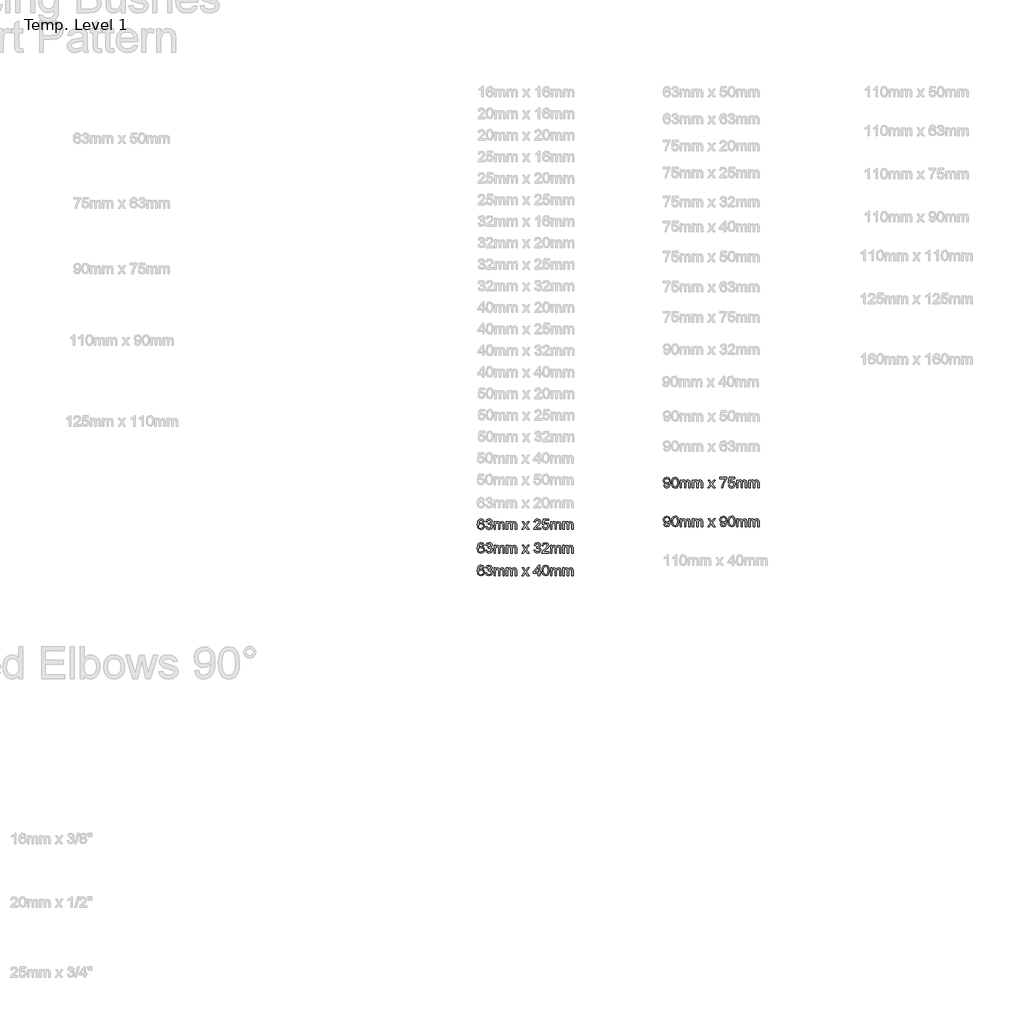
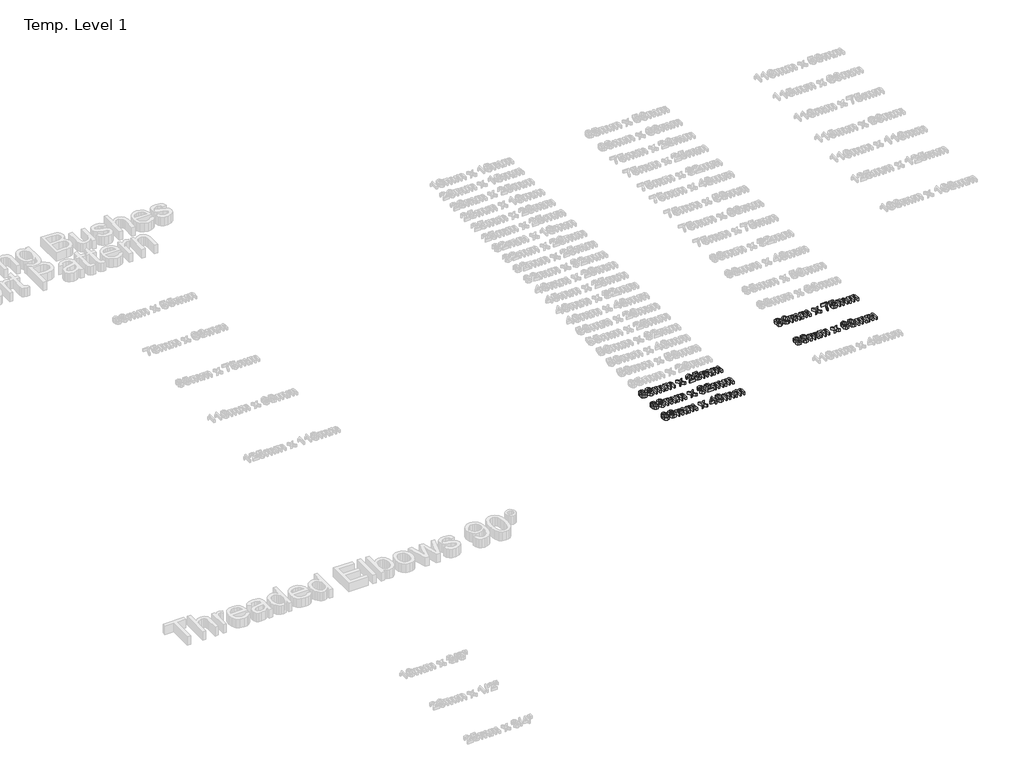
# One storey, part 25 of 62: 5 proxies.
"""IFC4 building model written with IfcOpenShell, lengths in millimetres."""

from ifc_helpers import new_model, si_unit, origin, origin_with_axes, place, context, project, spatial, polyline, outline, extrude, element, save

model = new_model("IFC4")

# Units and contexts
model_context = context("Model", 3, world=origin())
ifc_project = project(units=[si_unit("LENGTHUNIT", "METRE", prefix="MILLI")], contexts=[model_context])

# Site, building, storey
site = spatial("IfcSite", under=ifc_project)
building = spatial("IfcBuilding", under=site)
storey = spatial("IfcBuildingStorey", under=building, Name="Temp. Level 1", Elevation=0.0)

# Proxies
placement = place(None, origin())
element("IfcBuildingElementProxy", 1, Name="50mm Arial", ObjectType="50mm Arial", at=placement, inside=storey, context=model_context, shape_type="SweptSolid", body=[
    extrude(outline(polyline([(26443.7671463, -9341.2279829), (26437.6133001, -9341.9972136), (26435.2815694, -9336.8650021), (26429.115704, -9334.3049059), (26423.5628194, -9335.7952905), (26419.3620982, -9341.3902425), (26417.6133001, -9352.3577905), (26423.0399828, -9347.4479348), (26429.7647424, -9345.8433675), (26440.2214732, -9350.2303867), (26444.5363771, -9361.5645213), (26442.5051271, -9370.0561079), (26436.9161847, -9376.0657232), (26428.8512809, -9378.1510598), (26416.3092136, -9372.6222136), (26412.6718939, -9365.3025021), (26411.459454, -9354.4010598), (26412.8056078, -9342.1444492), (26416.8440694, -9333.7640405), (26422.3578915, -9329.554305), (26429.5003194, -9328.1510598), (26439.2238771, -9331.6246175), (26443.7671463, -9341.2279829)]), holes=[polyline([(26417.6133001, -9361.4683675), (26419.037579, -9366.7988963), (26422.8236367, -9370.6690886), (26428.3705117, -9371.9972136), (26435.6241174, -9369.2448098), (26438.3825309, -9361.7688482), (26435.6601751, -9354.6113963), (26428.1181078, -9351.9972136), (26420.6721944, -9354.6113963), (26417.6133001, -9361.4683675)])]), origin_with_axes(), (0.0, 0.0, 1.0), 15.0),
    extrude(outline(polyline([(26449.9209924, -9364.3049059), (26456.0748386, -9363.5356752), (26459.4702713, -9370.0140405), (26465.8224347, -9371.9972136), (26473.2983963, -9369.2688482), (26476.0748386, -9362.5140405), (26473.3224347, -9356.1498579), (26466.3272424, -9353.631829), (26462.0123386, -9354.3049059), (26462.6974347, -9348.1510598), (26470.6661847, -9346.4563482), (26473.7671463, -9341.0236559), (26471.5195501, -9336.209954), (26465.7262809, -9334.3049059), (26459.8608963, -9336.2279829), (26456.8440694, -9341.9972136), (26450.6902232, -9341.2279829), (26455.7262809, -9331.5765405), (26465.5099347, -9328.1510598), (26472.9318097, -9329.8397617), (26478.1241174, -9334.4551463), (26479.9209924, -9340.663079), (26478.2142617, -9346.3361559), (26473.1661847, -9350.4106752), (26479.8729155, -9354.6174059), (26482.2286847, -9362.6222136), (26477.5171463, -9373.631829), (26465.6060886, -9378.1510598), (26454.8128194, -9374.2928867), (26449.9209924, -9364.3049059)])), origin_with_axes(), (0.0, 0.0, 1.0), 15.0),
    extrude(outline(polyline([(26489.1517617, -9377.381829), (26489.1517617, -9341.2279829), (26495.3056078, -9341.2279829), (26495.3056078, -9347.1775021), (26499.5363771, -9342.303704), (26505.5580117, -9340.4587521), (26511.7238771, -9342.3397617), (26515.1133001, -9347.6101944), (26519.9149828, -9342.2466127), (26525.9786847, -9340.4587521), (26534.0255597, -9343.4335117), (26536.8440694, -9352.5981752), (26536.8440694, -9377.381829), (26530.6902232, -9377.381829), (26530.6902232, -9355.2424059), (26530.1193097, -9350.1041848), (26528.0520021, -9347.5741367), (26524.5363771, -9346.6125982), (26518.4846944, -9349.0765405), (26516.0748386, -9356.9731752), (26516.0748386, -9377.381829), (26509.9209924, -9377.381829), (26509.9209924, -9354.5573098), (26508.4967136, -9348.5957713), (26503.8272424, -9346.6125982), (26499.271954, -9347.9347136), (26496.2431078, -9351.8049059), (26495.3056078, -9359.1486559), (26495.3056078, -9377.381829), (26489.1517617, -9377.381829)])), origin_with_axes(), (0.0, 0.0, 1.0), 15.0),
    extrude(outline(polyline([(26546.0748386, -9377.381829), (26546.0748386, -9341.2279829), (26552.2286847, -9341.2279829), (26552.2286847, -9347.1775021), (26556.459454, -9342.303704), (26562.4810886, -9340.4587521), (26568.646954, -9342.3397617), (26572.0363771, -9347.6101944), (26576.8380597, -9342.2466127), (26582.9017617, -9340.4587521), (26590.9486367, -9343.4335117), (26593.7671463, -9352.5981752), (26593.7671463, -9377.381829), (26587.6133001, -9377.381829), (26587.6133001, -9355.2424059), (26587.0423867, -9350.1041848), (26584.975079, -9347.5741367), (26581.459454, -9346.6125982), (26575.4077713, -9349.0765405), (26572.9979155, -9356.9731752), (26572.9979155, -9377.381829), (26566.8440694, -9377.381829), (26566.8440694, -9354.5573098), (26565.4197905, -9348.5957713), (26560.7503194, -9346.6125982), (26556.1950309, -9347.9347136), (26553.1661847, -9351.8049059), (26552.2286847, -9359.1486559), (26552.2286847, -9377.381829), (26546.0748386, -9377.381829)])), origin_with_axes(), (0.0, 0.0, 1.0), 15.0),
    extrude(outline(polyline([(26618.3825309, -9377.381829), (26631.5315694, -9359.2087521), (26619.1517617, -9341.2279829), (26626.5556078, -9341.2279829), (26632.5291655, -9349.881829), (26635.3176271, -9353.9683675), (26637.7334924, -9350.6270213), (26644.5363771, -9341.2279829), (26651.9402232, -9341.2279829), (26638.9354155, -9359.2087521), (26651.459454, -9377.381829), (26644.0556078, -9377.381829), (26636.5195501, -9366.4563482), (26635.1373386, -9364.4611559), (26625.7863771, -9377.381829), (26618.3825309, -9377.381829)])), origin_with_axes(), (0.0, 0.0, 1.0), 15.0),
    extrude(outline(polyline([(26706.0748386, -9371.2279829), (26706.0748386, -9377.381829), (26673.7671463, -9377.381829), (26674.428204, -9373.1390405), (26678.1661847, -9366.6065886), (26685.8705117, -9359.4731752), (26696.4955117, -9349.2207713), (26699.1517617, -9342.2496175), (26696.6457521, -9336.6065886), (26690.1012809, -9334.3049059), (26683.2803674, -9336.5525021), (26680.6902232, -9342.7664444), (26674.5363771, -9341.9972136), (26679.2539251, -9331.6967329), (26690.2334924, -9328.1510598), (26701.2491174, -9332.0933675), (26705.3056078, -9341.8770213), (26704.2118578, -9347.7123579), (26700.5760405, -9353.7460117), (26691.7599347, -9362.1775021), (26684.6806078, -9368.0969732), (26681.9041655, -9371.2279829), (26706.0748386, -9371.2279829)])), origin_with_axes(), (0.0, 0.0, 1.0), 15.0),
    extrude(outline(polyline([(26712.2286847, -9364.3049059), (26718.3825309, -9363.5356752), (26721.4834924, -9369.8758194), (26727.9137809, -9371.9972136), (26735.6301271, -9369.0464925), (26738.3825309, -9361.2159636), (26735.8044059, -9353.9082713), (26728.0099347, -9351.2279829), (26722.6072905, -9352.2976944), (26719.1517617, -9355.0741367), (26712.9979155, -9354.3049059), (26718.3825309, -9328.9202905), (26742.2286847, -9328.9202905), (26742.2286847, -9335.0741367), (26723.3584924, -9335.0741367), (26720.7262809, -9348.631829), (26729.7286847, -9345.0741367), (26740.2515213, -9349.4851944), (26744.5363771, -9360.8313482), (26740.678204, -9372.2496175), (26735.1373386, -9376.6756992), (26727.8897424, -9378.1510598), (26717.0303674, -9374.3589925), (26712.2286847, -9364.3049059)])), origin_with_axes(), (0.0, 0.0, 1.0), 15.0),
    extrude(outline(polyline([(26751.459454, -9377.381829), (26751.459454, -9341.2279829), (26757.6133001, -9341.2279829), (26757.6133001, -9347.1775021), (26761.8440694, -9342.303704), (26767.865704, -9340.4587521), (26774.0315694, -9342.3397617), (26777.4209924, -9347.6101944), (26782.2226751, -9342.2466127), (26788.2863771, -9340.4587521), (26796.3332521, -9343.4335117), (26799.1517617, -9352.5981752), (26799.1517617, -9377.381829), (26792.9979155, -9377.381829), (26792.9979155, -9355.2424059), (26792.4270021, -9350.1041848), (26790.3596944, -9347.5741367), (26786.8440694, -9346.6125982), (26780.7923867, -9349.0765405), (26778.3825309, -9356.9731752), (26778.3825309, -9377.381829), (26772.2286847, -9377.381829), (26772.2286847, -9354.5573098), (26770.8044059, -9348.5957713), (26766.1349347, -9346.6125982), (26761.5796463, -9347.9347136), (26758.5508001, -9351.8049059), (26757.6133001, -9359.1486559), (26757.6133001, -9377.381829), (26751.459454, -9377.381829)])), origin_with_axes(), (0.0, 0.0, 1.0), 15.0),
    extrude(outline(polyline([(26808.3825309, -9377.381829), (26808.3825309, -9341.2279829), (26814.5363771, -9341.2279829), (26814.5363771, -9347.1775021), (26818.7671463, -9342.303704), (26824.7887809, -9340.4587521), (26830.9546463, -9342.3397617), (26834.3440694, -9347.6101944), (26839.1457521, -9342.2466127), (26845.209454, -9340.4587521), (26853.256329, -9343.4335117), (26856.0748386, -9352.5981752), (26856.0748386, -9377.381829), (26849.9209924, -9377.381829), (26849.9209924, -9355.2424059), (26849.350079, -9350.1041848), (26847.2827713, -9347.5741367), (26843.7671463, -9346.6125982), (26837.7154636, -9349.0765405), (26835.3056078, -9356.9731752), (26835.3056078, -9377.381829), (26829.1517617, -9377.381829), (26829.1517617, -9354.5573098), (26827.7274828, -9348.5957713), (26823.0580117, -9346.6125982), (26818.5027232, -9347.9347136), (26815.4738771, -9351.8049059), (26814.5363771, -9359.1486559), (26814.5363771, -9377.381829), (26808.3825309, -9377.381829)])), origin_with_axes(), (0.0, 0.0, 1.0), 15.0),
])
element("IfcBuildingElementProxy", 2, Name="50mm Arial", ObjectType="50mm Arial", at=placement, inside=storey, context=model_context, shape_type="SweptSolid", body=[
    extrude(outline(polyline([(26443.7671463, -9451.2279829), (26437.6133001, -9451.9972136), (26435.2815694, -9446.8650021), (26429.115704, -9444.3049059), (26423.5628194, -9445.7952905), (26419.3620982, -9451.3902425), (26417.6133001, -9462.3577905), (26423.0399828, -9457.4479348), (26429.7647424, -9455.8433675), (26440.2214732, -9460.2303867), (26444.5363771, -9471.5645213), (26442.5051271, -9480.0561079), (26436.9161847, -9486.0657232), (26428.8512809, -9488.1510598), (26416.3092136, -9482.6222136), (26412.6718939, -9475.3025021), (26411.459454, -9464.4010598), (26412.8056078, -9452.1444492), (26416.8440694, -9443.7640405), (26422.3578915, -9439.554305), (26429.5003194, -9438.1510598), (26439.2238771, -9441.6246175), (26443.7671463, -9451.2279829)]), holes=[polyline([(26417.6133001, -9471.4683675), (26419.037579, -9476.7988963), (26422.8236367, -9480.6690886), (26428.3705117, -9481.9972136), (26435.6241174, -9479.2448098), (26438.3825309, -9471.7688482), (26435.6601751, -9464.6113963), (26428.1181078, -9461.9972136), (26420.6721944, -9464.6113963), (26417.6133001, -9471.4683675)])]), origin_with_axes(), (0.0, 0.0, 1.0), 15.0),
    extrude(outline(polyline([(26449.9209924, -9474.3049059), (26456.0748386, -9473.5356752), (26459.4702713, -9480.0140405), (26465.8224347, -9481.9972136), (26473.2983963, -9479.2688482), (26476.0748386, -9472.5140405), (26473.3224347, -9466.1498579), (26466.3272424, -9463.631829), (26462.0123386, -9464.3049059), (26462.6974347, -9458.1510598), (26470.6661847, -9456.4563482), (26473.7671463, -9451.0236559), (26471.5195501, -9446.209954), (26465.7262809, -9444.3049059), (26459.8608963, -9446.2279829), (26456.8440694, -9451.9972136), (26450.6902232, -9451.2279829), (26455.7262809, -9441.5765405), (26465.5099347, -9438.1510598), (26472.9318097, -9439.8397617), (26478.1241174, -9444.4551463), (26479.9209924, -9450.663079), (26478.2142617, -9456.3361559), (26473.1661847, -9460.4106752), (26479.8729155, -9464.6174059), (26482.2286847, -9472.6222136), (26477.5171463, -9483.631829), (26465.6060886, -9488.1510598), (26454.8128194, -9484.2928867), (26449.9209924, -9474.3049059)])), origin_with_axes(), (0.0, 0.0, 1.0), 15.0),
    extrude(outline(polyline([(26489.1517617, -9487.381829), (26489.1517617, -9451.2279829), (26495.3056078, -9451.2279829), (26495.3056078, -9457.1775021), (26499.5363771, -9452.303704), (26505.5580117, -9450.4587521), (26511.7238771, -9452.3397617), (26515.1133001, -9457.6101944), (26519.9149828, -9452.2466127), (26525.9786847, -9450.4587521), (26534.0255597, -9453.4335117), (26536.8440694, -9462.5981752), (26536.8440694, -9487.381829), (26530.6902232, -9487.381829), (26530.6902232, -9465.2424059), (26530.1193097, -9460.1041848), (26528.0520021, -9457.5741367), (26524.5363771, -9456.6125982), (26518.4846944, -9459.0765405), (26516.0748386, -9466.9731752), (26516.0748386, -9487.381829), (26509.9209924, -9487.381829), (26509.9209924, -9464.5573098), (26508.4967136, -9458.5957713), (26503.8272424, -9456.6125982), (26499.271954, -9457.9347136), (26496.2431078, -9461.8049059), (26495.3056078, -9469.1486559), (26495.3056078, -9487.381829), (26489.1517617, -9487.381829)])), origin_with_axes(), (0.0, 0.0, 1.0), 15.0),
    extrude(outline(polyline([(26546.0748386, -9487.381829), (26546.0748386, -9451.2279829), (26552.2286847, -9451.2279829), (26552.2286847, -9457.1775021), (26556.459454, -9452.303704), (26562.4810886, -9450.4587521), (26568.646954, -9452.3397617), (26572.0363771, -9457.6101944), (26576.8380597, -9452.2466127), (26582.9017617, -9450.4587521), (26590.9486367, -9453.4335117), (26593.7671463, -9462.5981752), (26593.7671463, -9487.381829), (26587.6133001, -9487.381829), (26587.6133001, -9465.2424059), (26587.0423867, -9460.1041848), (26584.975079, -9457.5741367), (26581.459454, -9456.6125982), (26575.4077713, -9459.0765405), (26572.9979155, -9466.9731752), (26572.9979155, -9487.381829), (26566.8440694, -9487.381829), (26566.8440694, -9464.5573098), (26565.4197905, -9458.5957713), (26560.7503194, -9456.6125982), (26556.1950309, -9457.9347136), (26553.1661847, -9461.8049059), (26552.2286847, -9469.1486559), (26552.2286847, -9487.381829), (26546.0748386, -9487.381829)])), origin_with_axes(), (0.0, 0.0, 1.0), 15.0),
    extrude(outline(polyline([(26618.3825309, -9487.381829), (26631.5315694, -9469.2087521), (26619.1517617, -9451.2279829), (26626.5556078, -9451.2279829), (26632.5291655, -9459.881829), (26635.3176271, -9463.9683675), (26637.7334924, -9460.6270213), (26644.5363771, -9451.2279829), (26651.9402232, -9451.2279829), (26638.9354155, -9469.2087521), (26651.459454, -9487.381829), (26644.0556078, -9487.381829), (26636.5195501, -9476.4563482), (26635.1373386, -9474.4611559), (26625.7863771, -9487.381829), (26618.3825309, -9487.381829)])), origin_with_axes(), (0.0, 0.0, 1.0), 15.0),
    extrude(outline(polyline([(26674.5363771, -9474.3049059), (26680.6902232, -9473.5356752), (26684.0856559, -9480.0140405), (26690.4378194, -9481.9972136), (26697.9137809, -9479.2688482), (26700.6902232, -9472.5140405), (26697.9378194, -9466.1498579), (26690.9426271, -9463.631829), (26686.6277232, -9464.3049059), (26687.3128194, -9458.1510598), (26695.2815694, -9456.4563482), (26698.3825309, -9451.0236559), (26696.1349347, -9446.209954), (26690.3416655, -9444.3049059), (26684.4762809, -9446.2279829), (26681.459454, -9451.9972136), (26675.3056078, -9451.2279829), (26680.3416655, -9441.5765405), (26690.1253194, -9438.1510598), (26697.5471944, -9439.8397617), (26702.7395021, -9444.4551463), (26704.5363771, -9450.663079), (26702.8296463, -9456.3361559), (26697.7815694, -9460.4106752), (26704.4883001, -9464.6174059), (26706.8440694, -9472.6222136), (26702.1325309, -9483.631829), (26690.2214732, -9488.1510598), (26679.428204, -9484.2928867), (26674.5363771, -9474.3049059)])), origin_with_axes(), (0.0, 0.0, 1.0), 15.0),
    extrude(outline(polyline([(26743.7671463, -9481.2279829), (26743.7671463, -9487.381829), (26711.459454, -9487.381829), (26712.1205117, -9483.1390405), (26715.8584924, -9476.6065886), (26723.5628194, -9469.4731752), (26734.1878194, -9459.2207713), (26736.8440694, -9452.2496175), (26734.3380597, -9446.6065886), (26727.7935886, -9444.3049059), (26720.9726751, -9446.5525021), (26718.3825309, -9452.7664444), (26712.2286847, -9451.9972136), (26716.9462328, -9441.6967329), (26727.9258001, -9438.1510598), (26738.9414251, -9442.0933675), (26742.9979155, -9451.8770213), (26741.9041655, -9457.7123579), (26738.2683482, -9463.7460117), (26729.4522424, -9472.1775021), (26722.3729155, -9478.0969732), (26719.5964732, -9481.2279829), (26743.7671463, -9481.2279829)])), origin_with_axes(), (0.0, 0.0, 1.0), 15.0),
    extrude(outline(polyline([(26751.459454, -9487.381829), (26751.459454, -9451.2279829), (26757.6133001, -9451.2279829), (26757.6133001, -9457.1775021), (26761.8440694, -9452.303704), (26767.865704, -9450.4587521), (26774.0315694, -9452.3397617), (26777.4209924, -9457.6101944), (26782.2226751, -9452.2466127), (26788.2863771, -9450.4587521), (26796.3332521, -9453.4335117), (26799.1517617, -9462.5981752), (26799.1517617, -9487.381829), (26792.9979155, -9487.381829), (26792.9979155, -9465.2424059), (26792.4270021, -9460.1041848), (26790.3596944, -9457.5741367), (26786.8440694, -9456.6125982), (26780.7923867, -9459.0765405), (26778.3825309, -9466.9731752), (26778.3825309, -9487.381829), (26772.2286847, -9487.381829), (26772.2286847, -9464.5573098), (26770.8044059, -9458.5957713), (26766.1349347, -9456.6125982), (26761.5796463, -9457.9347136), (26758.5508001, -9461.8049059), (26757.6133001, -9469.1486559), (26757.6133001, -9487.381829), (26751.459454, -9487.381829)])), origin_with_axes(), (0.0, 0.0, 1.0), 15.0),
    extrude(outline(polyline([(26808.3825309, -9487.381829), (26808.3825309, -9451.2279829), (26814.5363771, -9451.2279829), (26814.5363771, -9457.1775021), (26818.7671463, -9452.303704), (26824.7887809, -9450.4587521), (26830.9546463, -9452.3397617), (26834.3440694, -9457.6101944), (26839.1457521, -9452.2466127), (26845.209454, -9450.4587521), (26853.256329, -9453.4335117), (26856.0748386, -9462.5981752), (26856.0748386, -9487.381829), (26849.9209924, -9487.381829), (26849.9209924, -9465.2424059), (26849.350079, -9460.1041848), (26847.2827713, -9457.5741367), (26843.7671463, -9456.6125982), (26837.7154636, -9459.0765405), (26835.3056078, -9466.9731752), (26835.3056078, -9487.381829), (26829.1517617, -9487.381829), (26829.1517617, -9464.5573098), (26827.7274828, -9458.5957713), (26823.0580117, -9456.6125982), (26818.5027232, -9457.9347136), (26815.4738771, -9461.8049059), (26814.5363771, -9469.1486559), (26814.5363771, -9487.381829), (26808.3825309, -9487.381829)])), origin_with_axes(), (0.0, 0.0, 1.0), 15.0),
])
element("IfcBuildingElementProxy", 3, Name="50mm Arial", ObjectType="50mm Arial", at=placement, inside=storey, context=model_context, shape_type="SweptSolid", body=[
    extrude(outline(polyline([(26443.7671463, -9556.2279829), (26437.6133001, -9556.9972136), (26435.2815694, -9551.8650021), (26429.115704, -9549.3049059), (26423.5628194, -9550.7952905), (26419.3620982, -9556.3902425), (26417.6133001, -9567.3577905), (26423.0399828, -9562.4479348), (26429.7647424, -9560.8433675), (26440.2214732, -9565.2303867), (26444.5363771, -9576.5645213), (26442.5051271, -9585.0561079), (26436.9161847, -9591.0657232), (26428.8512809, -9593.1510598), (26416.3092136, -9587.6222136), (26412.6718939, -9580.3025021), (26411.459454, -9569.4010598), (26412.8056078, -9557.1444492), (26416.8440694, -9548.7640405), (26422.3578915, -9544.554305), (26429.5003194, -9543.1510598), (26439.2238771, -9546.6246175), (26443.7671463, -9556.2279829)]), holes=[polyline([(26417.6133001, -9576.4683675), (26419.037579, -9581.7988963), (26422.8236367, -9585.6690886), (26428.3705117, -9586.9972136), (26435.6241174, -9584.2448098), (26438.3825309, -9576.7688482), (26435.6601751, -9569.6113963), (26428.1181078, -9566.9972136), (26420.6721944, -9569.6113963), (26417.6133001, -9576.4683675)])]), origin_with_axes(), (0.0, 0.0, 1.0), 15.0),
    extrude(outline(polyline([(26449.9209924, -9579.3049059), (26456.0748386, -9578.5356752), (26459.4702713, -9585.0140405), (26465.8224347, -9586.9972136), (26473.2983963, -9584.2688482), (26476.0748386, -9577.5140405), (26473.3224347, -9571.1498579), (26466.3272424, -9568.631829), (26462.0123386, -9569.3049059), (26462.6974347, -9563.1510598), (26470.6661847, -9561.4563482), (26473.7671463, -9556.0236559), (26471.5195501, -9551.209954), (26465.7262809, -9549.3049059), (26459.8608963, -9551.2279829), (26456.8440694, -9556.9972136), (26450.6902232, -9556.2279829), (26455.7262809, -9546.5765405), (26465.5099347, -9543.1510598), (26472.9318097, -9544.8397617), (26478.1241174, -9549.4551463), (26479.9209924, -9555.663079), (26478.2142617, -9561.3361559), (26473.1661847, -9565.4106752), (26479.8729155, -9569.6174059), (26482.2286847, -9577.6222136), (26477.5171463, -9588.631829), (26465.6060886, -9593.1510598), (26454.8128194, -9589.2928867), (26449.9209924, -9579.3049059)])), origin_with_axes(), (0.0, 0.0, 1.0), 15.0),
    extrude(outline(polyline([(26489.1517617, -9592.381829), (26489.1517617, -9556.2279829), (26495.3056078, -9556.2279829), (26495.3056078, -9562.1775021), (26499.5363771, -9557.303704), (26505.5580117, -9555.4587521), (26511.7238771, -9557.3397617), (26515.1133001, -9562.6101944), (26519.9149828, -9557.2466127), (26525.9786847, -9555.4587521), (26534.0255597, -9558.4335117), (26536.8440694, -9567.5981752), (26536.8440694, -9592.381829), (26530.6902232, -9592.381829), (26530.6902232, -9570.2424059), (26530.1193097, -9565.1041848), (26528.0520021, -9562.5741367), (26524.5363771, -9561.6125982), (26518.4846944, -9564.0765405), (26516.0748386, -9571.9731752), (26516.0748386, -9592.381829), (26509.9209924, -9592.381829), (26509.9209924, -9569.5573098), (26508.4967136, -9563.5957713), (26503.8272424, -9561.6125982), (26499.271954, -9562.9347136), (26496.2431078, -9566.8049059), (26495.3056078, -9574.1486559), (26495.3056078, -9592.381829), (26489.1517617, -9592.381829)])), origin_with_axes(), (0.0, 0.0, 1.0), 15.0),
    extrude(outline(polyline([(26546.0748386, -9592.381829), (26546.0748386, -9556.2279829), (26552.2286847, -9556.2279829), (26552.2286847, -9562.1775021), (26556.459454, -9557.303704), (26562.4810886, -9555.4587521), (26568.646954, -9557.3397617), (26572.0363771, -9562.6101944), (26576.8380597, -9557.2466127), (26582.9017617, -9555.4587521), (26590.9486367, -9558.4335117), (26593.7671463, -9567.5981752), (26593.7671463, -9592.381829), (26587.6133001, -9592.381829), (26587.6133001, -9570.2424059), (26587.0423867, -9565.1041848), (26584.975079, -9562.5741367), (26581.459454, -9561.6125982), (26575.4077713, -9564.0765405), (26572.9979155, -9571.9731752), (26572.9979155, -9592.381829), (26566.8440694, -9592.381829), (26566.8440694, -9569.5573098), (26565.4197905, -9563.5957713), (26560.7503194, -9561.6125982), (26556.1950309, -9562.9347136), (26553.1661847, -9566.8049059), (26552.2286847, -9574.1486559), (26552.2286847, -9592.381829), (26546.0748386, -9592.381829)])), origin_with_axes(), (0.0, 0.0, 1.0), 15.0),
    extrude(outline(polyline([(26618.3825309, -9592.381829), (26631.5315694, -9574.2087521), (26619.1517617, -9556.2279829), (26626.5556078, -9556.2279829), (26632.5291655, -9564.881829), (26635.3176271, -9568.9683675), (26637.7334924, -9565.6270213), (26644.5363771, -9556.2279829), (26651.9402232, -9556.2279829), (26638.9354155, -9574.2087521), (26651.459454, -9592.381829), (26644.0556078, -9592.381829), (26636.5195501, -9581.4563482), (26635.1373386, -9579.4611559), (26625.7863771, -9592.381829), (26618.3825309, -9592.381829)])), origin_with_axes(), (0.0, 0.0, 1.0), 15.0),
    extrude(outline(polyline([(26694.5363771, -9592.381829), (26694.5363771, -9580.8433675), (26672.2286847, -9580.8433675), (26672.2286847, -9574.6895213), (26696.0748386, -9543.9202905), (26700.6902232, -9543.9202905), (26700.6902232, -9574.6895213), (26706.8440694, -9574.6895213), (26706.8440694, -9580.8433675), (26700.6902232, -9580.8433675), (26700.6902232, -9592.381829), (26694.5363771, -9592.381829)]), holes=[polyline([(26694.5363771, -9574.6895213), (26694.5363771, -9555.6750982), (26679.8008001, -9574.6895213), (26694.5363771, -9574.6895213)])]), origin_with_axes(), (0.0, 0.0, 1.0), 15.0),
    extrude(outline(polyline([(26712.2286847, -9568.163079), (26714.037579, -9553.9984155), (26719.4101751, -9545.8313482), (26728.3825309, -9543.1510598), (26735.5700309, -9544.7375982), (26740.5339732, -9549.3109155), (26743.4185886, -9556.5945694), (26744.5363771, -9568.163079), (26742.7455117, -9582.2676463), (26737.3909444, -9590.4527425), (26728.3825309, -9593.1510598), (26717.1325309, -9588.4635598), (26713.4546463, -9580.1372377), (26712.2286847, -9568.163079)]), holes=[polyline([(26718.3825309, -9568.1510598), (26721.2671463, -9583.4335117), (26728.3825309, -9586.9972136), (26735.4979155, -9583.4214925), (26738.3825309, -9568.1510598), (26735.5940694, -9553.0428867), (26728.3104155, -9549.3049059), (26721.3633001, -9552.5981752), (26718.3825309, -9568.1510598)])]), origin_with_axes(), (0.0, 0.0, 1.0), 15.0),
    extrude(outline(polyline([(26751.459454, -9592.381829), (26751.459454, -9556.2279829), (26757.6133001, -9556.2279829), (26757.6133001, -9562.1775021), (26761.8440694, -9557.303704), (26767.865704, -9555.4587521), (26774.0315694, -9557.3397617), (26777.4209924, -9562.6101944), (26782.2226751, -9557.2466127), (26788.2863771, -9555.4587521), (26796.3332521, -9558.4335117), (26799.1517617, -9567.5981752), (26799.1517617, -9592.381829), (26792.9979155, -9592.381829), (26792.9979155, -9570.2424059), (26792.4270021, -9565.1041848), (26790.3596944, -9562.5741367), (26786.8440694, -9561.6125982), (26780.7923867, -9564.0765405), (26778.3825309, -9571.9731752), (26778.3825309, -9592.381829), (26772.2286847, -9592.381829), (26772.2286847, -9569.5573098), (26770.8044059, -9563.5957713), (26766.1349347, -9561.6125982), (26761.5796463, -9562.9347136), (26758.5508001, -9566.8049059), (26757.6133001, -9574.1486559), (26757.6133001, -9592.381829), (26751.459454, -9592.381829)])), origin_with_axes(), (0.0, 0.0, 1.0), 15.0),
    extrude(outline(polyline([(26808.3825309, -9592.381829), (26808.3825309, -9556.2279829), (26814.5363771, -9556.2279829), (26814.5363771, -9562.1775021), (26818.7671463, -9557.303704), (26824.7887809, -9555.4587521), (26830.9546463, -9557.3397617), (26834.3440694, -9562.6101944), (26839.1457521, -9557.2466127), (26845.209454, -9555.4587521), (26853.256329, -9558.4335117), (26856.0748386, -9567.5981752), (26856.0748386, -9592.381829), (26849.9209924, -9592.381829), (26849.9209924, -9570.2424059), (26849.350079, -9565.1041848), (26847.2827713, -9562.5741367), (26843.7671463, -9561.6125982), (26837.7154636, -9564.0765405), (26835.3056078, -9571.9731752), (26835.3056078, -9592.381829), (26829.1517617, -9592.381829), (26829.1517617, -9569.5573098), (26827.7274828, -9563.5957713), (26823.0580117, -9561.6125982), (26818.5027232, -9562.9347136), (26815.4738771, -9566.8049059), (26814.5363771, -9574.1486559), (26814.5363771, -9592.381829), (26808.3825309, -9592.381829)])), origin_with_axes(), (0.0, 0.0, 1.0), 15.0),
])
element("IfcBuildingElementProxy", 4, Name="50mm Arial", ObjectType="50mm Arial", at=placement, inside=storey, context=model_context, shape_type="SweptSolid", body=[
    extrude(outline(polyline([(27276.4878652, -9172.2488061), (27282.6417113, -9171.4795754), (27285.4061344, -9177.3509696), (27290.646519, -9179.1718831), (27295.6284902, -9178.0000081), (27299.005894, -9174.8689984), (27301.0191152, -9169.5204408), (27301.9085383, -9162.3810177), (27296.9506056, -9165.8425561), (27290.2018075, -9167.6334215), (27279.9193556, -9163.2584215), (27275.7186344, -9151.7319792), (27280.1236825, -9139.8329408), (27291.163346, -9135.3257292), (27299.9313748, -9137.8978446), (27305.9650286, -9145.2295754), (27308.0263267, -9159.0036138), (27305.9710383, -9173.9495273), (27299.8592594, -9182.4170754), (27290.3580575, -9185.3257292), (27280.8989229, -9181.8942388), (27276.4878652, -9172.2488061)]), holes=[polyline([(27301.8724806, -9151.5877484), (27299.2162306, -9144.2079408), (27292.1609421, -9141.4795754), (27284.757096, -9144.4182773), (27281.8724806, -9152.03246), (27284.600846, -9158.8533734), (27291.9926729, -9161.4795754), (27299.0900286, -9158.8533734), (27301.8724806, -9151.5877484)])]), origin_with_axes(), (0.0, 0.0, 1.0), 15.0),
    extrude(outline(polyline([(27313.4109421, -9160.3377484), (27315.2198363, -9146.173085), (27320.5924325, -9138.0060177), (27329.5647883, -9135.3257292), (27336.7522883, -9136.9122677), (27341.7162306, -9141.485585), (27344.600846, -9148.7692388), (27345.7186344, -9160.3377484), (27343.927769, -9174.4423158), (27338.5732017, -9182.6274119), (27329.5647883, -9185.3257292), (27318.3147883, -9180.6382292), (27314.6369036, -9172.3119071), (27313.4109421, -9160.3377484)]), holes=[polyline([(27319.5647883, -9160.3257292), (27322.4494036, -9175.6081811), (27329.5647883, -9179.1718831), (27336.6801729, -9175.5961619), (27339.5647883, -9160.3257292), (27336.7763267, -9145.2175561), (27329.4926729, -9141.4795754), (27322.5455575, -9144.7728446), (27319.5647883, -9160.3257292)])]), origin_with_axes(), (0.0, 0.0, 1.0), 15.0),
    extrude(outline(polyline([(27352.6417113, -9184.5564984), (27352.6417113, -9148.4026523), (27358.7955575, -9148.4026523), (27358.7955575, -9154.3521715), (27363.0263267, -9149.4783734), (27369.0479613, -9147.6334215), (27375.2138267, -9149.5144311), (27378.6032498, -9154.7848638), (27383.4049325, -9149.4212821), (27389.4686344, -9147.6334215), (27397.5155094, -9150.6081811), (27400.334019, -9159.7728446), (27400.334019, -9184.5564984), (27394.1801729, -9184.5564984), (27394.1801729, -9162.4170754), (27393.6092594, -9157.2788542), (27391.5419517, -9154.7488061), (27388.0263267, -9153.7872677), (27381.974644, -9156.25121), (27379.5647883, -9164.1478446), (27379.5647883, -9184.5564984), (27373.4109421, -9184.5564984), (27373.4109421, -9161.7319792), (27371.9866633, -9155.7704408), (27367.3171921, -9153.7872677), (27362.7619036, -9155.1093831), (27359.7330575, -9158.9795754), (27358.7955575, -9166.3233254), (27358.7955575, -9184.5564984), (27352.6417113, -9184.5564984)])), origin_with_axes(), (0.0, 0.0, 1.0), 15.0),
    extrude(outline(polyline([(27409.5647883, -9184.5564984), (27409.5647883, -9148.4026523), (27415.7186344, -9148.4026523), (27415.7186344, -9154.3521715), (27419.9494036, -9149.4783734), (27425.9710383, -9147.6334215), (27432.1369036, -9149.5144311), (27435.5263267, -9154.7848638), (27440.3280094, -9149.4212821), (27446.3917113, -9147.6334215), (27454.4385863, -9150.6081811), (27457.257096, -9159.7728446), (27457.257096, -9184.5564984), (27451.1032498, -9184.5564984), (27451.1032498, -9162.4170754), (27450.5323363, -9157.2788542), (27448.4650286, -9154.7488061), (27444.9494036, -9153.7872677), (27438.897721, -9156.25121), (27436.4878652, -9164.1478446), (27436.4878652, -9184.5564984), (27430.334019, -9184.5564984), (27430.334019, -9161.7319792), (27428.9097402, -9155.7704408), (27424.240269, -9153.7872677), (27419.6849806, -9155.1093831), (27416.6561344, -9158.9795754), (27415.7186344, -9166.3233254), (27415.7186344, -9184.5564984), (27409.5647883, -9184.5564984)])), origin_with_axes(), (0.0, 0.0, 1.0), 15.0),
    extrude(outline(polyline([(27481.8724806, -9184.5564984), (27495.021519, -9166.3834215), (27482.6417113, -9148.4026523), (27490.0455575, -9148.4026523), (27496.0191152, -9157.0564984), (27498.8075767, -9161.1430369), (27501.2234421, -9157.8016908), (27508.0263267, -9148.4026523), (27515.4301729, -9148.4026523), (27502.4253652, -9166.3834215), (27514.9494036, -9184.5564984), (27507.5455575, -9184.5564984), (27500.0094998, -9173.6310177), (27498.6272883, -9171.6358254), (27489.2763267, -9184.5564984), (27481.8724806, -9184.5564984)])), origin_with_axes(), (0.0, 0.0, 1.0), 15.0),
    extrude(outline(polyline([(27538.0263267, -9142.2488061), (27538.0263267, -9136.09496), (27570.334019, -9136.09496), (27570.334019, -9141.0709215), (27561.1693556, -9154.3101042), (27554.1561344, -9171.1790946), (27551.8724806, -9184.5564984), (27545.7186344, -9184.5564984), (27548.1645479, -9170.6742869), (27554.8772883, -9154.9831811), (27564.1801729, -9142.2488061), (27538.0263267, -9142.2488061)])), origin_with_axes(), (0.0, 0.0, 1.0), 15.0),
    extrude(outline(polyline([(27575.7186344, -9171.4795754), (27581.8724806, -9170.7103446), (27584.9734421, -9177.0504888), (27591.4037306, -9179.1718831), (27599.1200767, -9176.2211619), (27601.8724806, -9168.3906331), (27599.2943556, -9161.0829408), (27591.4998844, -9158.4026523), (27586.0972402, -9159.4723638), (27582.6417113, -9162.2488061), (27576.4878652, -9161.4795754), (27581.8724806, -9136.09496), (27605.7186344, -9136.09496), (27605.7186344, -9142.2488061), (27586.8484421, -9142.2488061), (27584.2162306, -9155.8064984), (27593.2186344, -9152.2488061), (27603.741471, -9156.6598638), (27608.0263267, -9168.0060177), (27604.1681536, -9179.4242869), (27598.6272883, -9183.8503686), (27591.3796921, -9185.3257292), (27580.5203171, -9181.5336619), (27575.7186344, -9171.4795754)])), origin_with_axes(), (0.0, 0.0, 1.0), 15.0),
    extrude(outline(polyline([(27614.9494036, -9184.5564984), (27614.9494036, -9148.4026523), (27621.1032498, -9148.4026523), (27621.1032498, -9154.3521715), (27625.334019, -9149.4783734), (27631.3556536, -9147.6334215), (27637.521519, -9149.5144311), (27640.9109421, -9154.7848638), (27645.7126248, -9149.4212821), (27651.7763267, -9147.6334215), (27659.8232017, -9150.6081811), (27662.6417113, -9159.7728446), (27662.6417113, -9184.5564984), (27656.4878652, -9184.5564984), (27656.4878652, -9162.4170754), (27655.9169517, -9157.2788542), (27653.849644, -9154.7488061), (27650.334019, -9153.7872677), (27644.2823363, -9156.25121), (27641.8724806, -9164.1478446), (27641.8724806, -9184.5564984), (27635.7186344, -9184.5564984), (27635.7186344, -9161.7319792), (27634.2943556, -9155.7704408), (27629.6248844, -9153.7872677), (27625.069596, -9155.1093831), (27622.0407498, -9158.9795754), (27621.1032498, -9166.3233254), (27621.1032498, -9184.5564984), (27614.9494036, -9184.5564984)])), origin_with_axes(), (0.0, 0.0, 1.0), 15.0),
    extrude(outline(polyline([(27671.8724806, -9184.5564984), (27671.8724806, -9148.4026523), (27678.0263267, -9148.4026523), (27678.0263267, -9154.3521715), (27682.257096, -9149.4783734), (27688.2787306, -9147.6334215), (27694.444596, -9149.5144311), (27697.834019, -9154.7848638), (27702.6357017, -9149.4212821), (27708.6994036, -9147.6334215), (27716.7462786, -9150.6081811), (27719.5647883, -9159.7728446), (27719.5647883, -9184.5564984), (27713.4109421, -9184.5564984), (27713.4109421, -9162.4170754), (27712.8400286, -9157.2788542), (27710.772721, -9154.7488061), (27707.257096, -9153.7872677), (27701.2054133, -9156.25121), (27698.7955575, -9164.1478446), (27698.7955575, -9184.5564984), (27692.6417113, -9184.5564984), (27692.6417113, -9161.7319792), (27691.2174325, -9155.7704408), (27686.5479613, -9153.7872677), (27681.9926729, -9155.1093831), (27678.9638267, -9158.9795754), (27678.0263267, -9166.3233254), (27678.0263267, -9184.5564984), (27671.8724806, -9184.5564984)])), origin_with_axes(), (0.0, 0.0, 1.0), 15.0),
])
element("IfcBuildingElementProxy", 5, Name="50mm Arial", ObjectType="50mm Arial", at=placement, inside=storey, context=model_context, shape_type="SweptSolid", body=[
    extrude(outline(polyline([(27276.4878652, -9352.2488061), (27282.6417113, -9351.4795754), (27285.4061344, -9357.3509696), (27290.646519, -9359.1718831), (27295.6284902, -9358.0000081), (27299.005894, -9354.8689984), (27301.0191152, -9349.5204408), (27301.9085383, -9342.3810177), (27296.9506056, -9345.8425561), (27290.2018075, -9347.6334215), (27279.9193556, -9343.2584215), (27275.7186344, -9331.7319792), (27280.1236825, -9319.8329408), (27291.163346, -9315.3257292), (27299.9313748, -9317.8978446), (27305.9650286, -9325.2295754), (27308.0263267, -9339.0036138), (27305.9710383, -9353.9495273), (27299.8592594, -9362.4170754), (27290.3580575, -9365.3257292), (27280.8989229, -9361.8942388), (27276.4878652, -9352.2488061)]), holes=[polyline([(27301.8724806, -9331.5877484), (27299.2162306, -9324.2079408), (27292.1609421, -9321.4795754), (27284.757096, -9324.4182773), (27281.8724806, -9332.03246), (27284.600846, -9338.8533734), (27291.9926729, -9341.4795754), (27299.0900286, -9338.8533734), (27301.8724806, -9331.5877484)])]), origin_with_axes(), (0.0, 0.0, 1.0), 15.0),
    extrude(outline(polyline([(27313.4109421, -9340.3377484), (27315.2198363, -9326.173085), (27320.5924325, -9318.0060177), (27329.5647883, -9315.3257292), (27336.7522883, -9316.9122677), (27341.7162306, -9321.485585), (27344.600846, -9328.7692388), (27345.7186344, -9340.3377484), (27343.927769, -9354.4423158), (27338.5732017, -9362.6274119), (27329.5647883, -9365.3257292), (27318.3147883, -9360.6382292), (27314.6369036, -9352.3119071), (27313.4109421, -9340.3377484)]), holes=[polyline([(27319.5647883, -9340.3257292), (27322.4494036, -9355.6081811), (27329.5647883, -9359.1718831), (27336.6801729, -9355.5961619), (27339.5647883, -9340.3257292), (27336.7763267, -9325.2175561), (27329.4926729, -9321.4795754), (27322.5455575, -9324.7728446), (27319.5647883, -9340.3257292)])]), origin_with_axes(), (0.0, 0.0, 1.0), 15.0),
    extrude(outline(polyline([(27352.6417113, -9364.5564984), (27352.6417113, -9328.4026523), (27358.7955575, -9328.4026523), (27358.7955575, -9334.3521715), (27363.0263267, -9329.4783734), (27369.0479613, -9327.6334215), (27375.2138267, -9329.5144311), (27378.6032498, -9334.7848638), (27383.4049325, -9329.4212821), (27389.4686344, -9327.6334215), (27397.5155094, -9330.6081811), (27400.334019, -9339.7728446), (27400.334019, -9364.5564984), (27394.1801729, -9364.5564984), (27394.1801729, -9342.4170754), (27393.6092594, -9337.2788542), (27391.5419517, -9334.7488061), (27388.0263267, -9333.7872677), (27381.974644, -9336.25121), (27379.5647883, -9344.1478446), (27379.5647883, -9364.5564984), (27373.4109421, -9364.5564984), (27373.4109421, -9341.7319792), (27371.9866633, -9335.7704408), (27367.3171921, -9333.7872677), (27362.7619036, -9335.1093831), (27359.7330575, -9338.9795754), (27358.7955575, -9346.3233254), (27358.7955575, -9364.5564984), (27352.6417113, -9364.5564984)])), origin_with_axes(), (0.0, 0.0, 1.0), 15.0),
    extrude(outline(polyline([(27409.5647883, -9364.5564984), (27409.5647883, -9328.4026523), (27415.7186344, -9328.4026523), (27415.7186344, -9334.3521715), (27419.9494036, -9329.4783734), (27425.9710383, -9327.6334215), (27432.1369036, -9329.5144311), (27435.5263267, -9334.7848638), (27440.3280094, -9329.4212821), (27446.3917113, -9327.6334215), (27454.4385863, -9330.6081811), (27457.257096, -9339.7728446), (27457.257096, -9364.5564984), (27451.1032498, -9364.5564984), (27451.1032498, -9342.4170754), (27450.5323363, -9337.2788542), (27448.4650286, -9334.7488061), (27444.9494036, -9333.7872677), (27438.897721, -9336.25121), (27436.4878652, -9344.1478446), (27436.4878652, -9364.5564984), (27430.334019, -9364.5564984), (27430.334019, -9341.7319792), (27428.9097402, -9335.7704408), (27424.240269, -9333.7872677), (27419.6849806, -9335.1093831), (27416.6561344, -9338.9795754), (27415.7186344, -9346.3233254), (27415.7186344, -9364.5564984), (27409.5647883, -9364.5564984)])), origin_with_axes(), (0.0, 0.0, 1.0), 15.0),
    extrude(outline(polyline([(27481.8724806, -9364.5564984), (27495.021519, -9346.3834215), (27482.6417113, -9328.4026523), (27490.0455575, -9328.4026523), (27496.0191152, -9337.0564984), (27498.8075767, -9341.1430369), (27501.2234421, -9337.8016908), (27508.0263267, -9328.4026523), (27515.4301729, -9328.4026523), (27502.4253652, -9346.3834215), (27514.9494036, -9364.5564984), (27507.5455575, -9364.5564984), (27500.0094998, -9353.6310177), (27498.6272883, -9351.6358254), (27489.2763267, -9364.5564984), (27481.8724806, -9364.5564984)])), origin_with_axes(), (0.0, 0.0, 1.0), 15.0),
    extrude(outline(polyline([(27538.7955575, -9352.2488061), (27544.9494036, -9351.4795754), (27547.7138267, -9357.3509696), (27552.9542113, -9359.1718831), (27557.9361825, -9358.0000081), (27561.3135863, -9354.8689984), (27563.3268075, -9349.5204408), (27564.2162306, -9342.3810177), (27559.2582979, -9345.8425561), (27552.5094998, -9347.6334215), (27542.2270479, -9343.2584215), (27538.0263267, -9331.7319792), (27542.4313748, -9319.8329408), (27553.4710383, -9315.3257292), (27562.2390671, -9317.8978446), (27568.272721, -9325.2295754), (27570.334019, -9339.0036138), (27568.2787306, -9353.9495273), (27562.1669517, -9362.4170754), (27552.6657498, -9365.3257292), (27543.2066152, -9361.8942388), (27538.7955575, -9352.2488061)]), holes=[polyline([(27564.1801729, -9331.5877484), (27561.5239229, -9324.2079408), (27554.4686344, -9321.4795754), (27547.0647883, -9324.4182773), (27544.1801729, -9332.03246), (27546.9085383, -9338.8533734), (27554.3003652, -9341.4795754), (27561.397721, -9338.8533734), (27564.1801729, -9331.5877484)])]), origin_with_axes(), (0.0, 0.0, 1.0), 15.0),
    extrude(outline(polyline([(27575.7186344, -9340.3377484), (27577.5275286, -9326.173085), (27582.9001248, -9318.0060177), (27591.8724806, -9315.3257292), (27599.0599806, -9316.9122677), (27604.0239229, -9321.485585), (27606.9085383, -9328.7692388), (27608.0263267, -9340.3377484), (27606.2354613, -9354.4423158), (27600.880894, -9362.6274119), (27591.8724806, -9365.3257292), (27580.6224806, -9360.6382292), (27576.944596, -9352.3119071), (27575.7186344, -9340.3377484)]), holes=[polyline([(27581.8724806, -9340.3257292), (27584.757096, -9355.6081811), (27591.8724806, -9359.1718831), (27598.9878652, -9355.5961619), (27601.8724806, -9340.3257292), (27599.084019, -9325.2175561), (27591.8003652, -9321.4795754), (27584.8532498, -9324.7728446), (27581.8724806, -9340.3257292)])]), origin_with_axes(), (0.0, 0.0, 1.0), 15.0),
    extrude(outline(polyline([(27614.9494036, -9364.5564984), (27614.9494036, -9328.4026523), (27621.1032498, -9328.4026523), (27621.1032498, -9334.3521715), (27625.334019, -9329.4783734), (27631.3556536, -9327.6334215), (27637.521519, -9329.5144311), (27640.9109421, -9334.7848638), (27645.7126248, -9329.4212821), (27651.7763267, -9327.6334215), (27659.8232017, -9330.6081811), (27662.6417113, -9339.7728446), (27662.6417113, -9364.5564984), (27656.4878652, -9364.5564984), (27656.4878652, -9342.4170754), (27655.9169517, -9337.2788542), (27653.849644, -9334.7488061), (27650.334019, -9333.7872677), (27644.2823363, -9336.25121), (27641.8724806, -9344.1478446), (27641.8724806, -9364.5564984), (27635.7186344, -9364.5564984), (27635.7186344, -9341.7319792), (27634.2943556, -9335.7704408), (27629.6248844, -9333.7872677), (27625.069596, -9335.1093831), (27622.0407498, -9338.9795754), (27621.1032498, -9346.3233254), (27621.1032498, -9364.5564984), (27614.9494036, -9364.5564984)])), origin_with_axes(), (0.0, 0.0, 1.0), 15.0),
    extrude(outline(polyline([(27671.8724806, -9364.5564984), (27671.8724806, -9328.4026523), (27678.0263267, -9328.4026523), (27678.0263267, -9334.3521715), (27682.257096, -9329.4783734), (27688.2787306, -9327.6334215), (27694.444596, -9329.5144311), (27697.834019, -9334.7848638), (27702.6357017, -9329.4212821), (27708.6994036, -9327.6334215), (27716.7462786, -9330.6081811), (27719.5647883, -9339.7728446), (27719.5647883, -9364.5564984), (27713.4109421, -9364.5564984), (27713.4109421, -9342.4170754), (27712.8400286, -9337.2788542), (27710.772721, -9334.7488061), (27707.257096, -9333.7872677), (27701.2054133, -9336.25121), (27698.7955575, -9344.1478446), (27698.7955575, -9364.5564984), (27692.6417113, -9364.5564984), (27692.6417113, -9341.7319792), (27691.2174325, -9335.7704408), (27686.5479613, -9333.7872677), (27681.9926729, -9335.1093831), (27678.9638267, -9338.9795754), (27678.0263267, -9346.3233254), (27678.0263267, -9364.5564984), (27671.8724806, -9364.5564984)])), origin_with_axes(), (0.0, 0.0, 1.0), 15.0),
])

save(model, "model.ifc")
